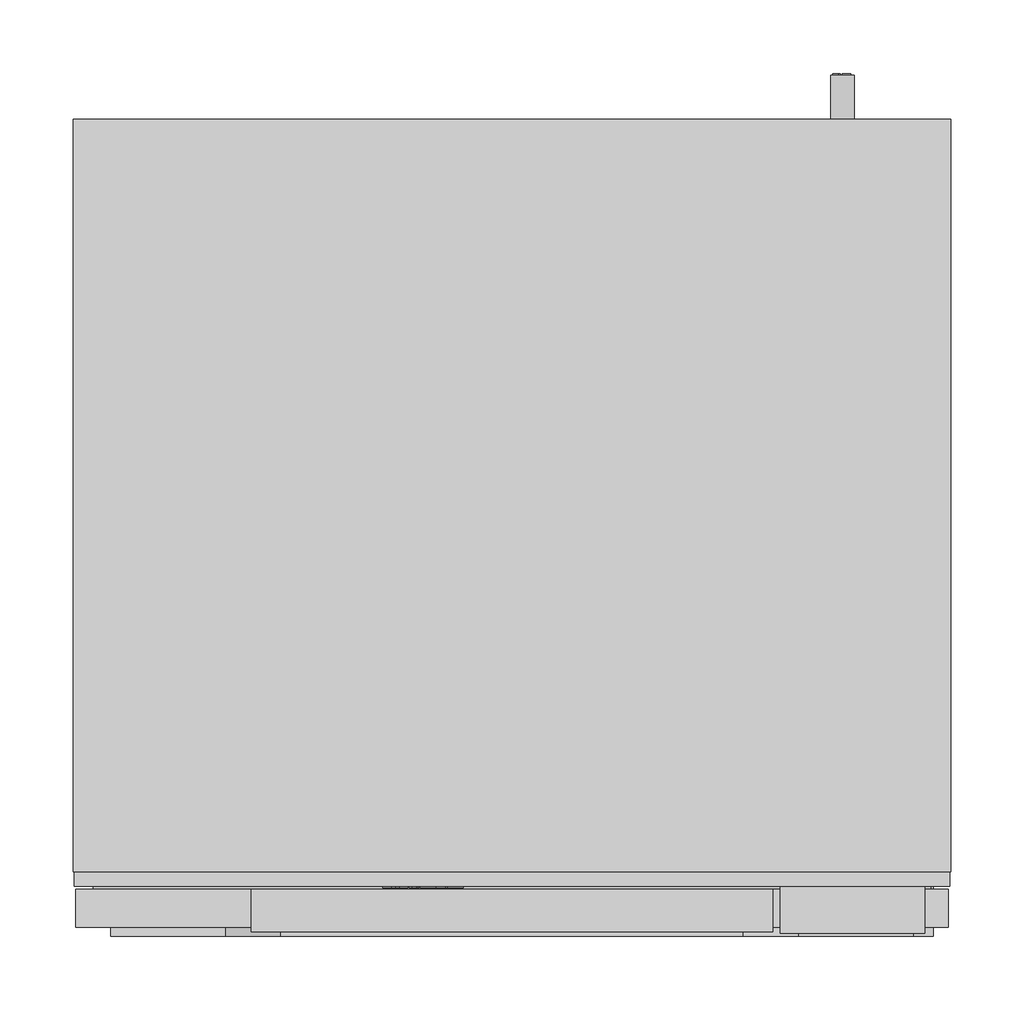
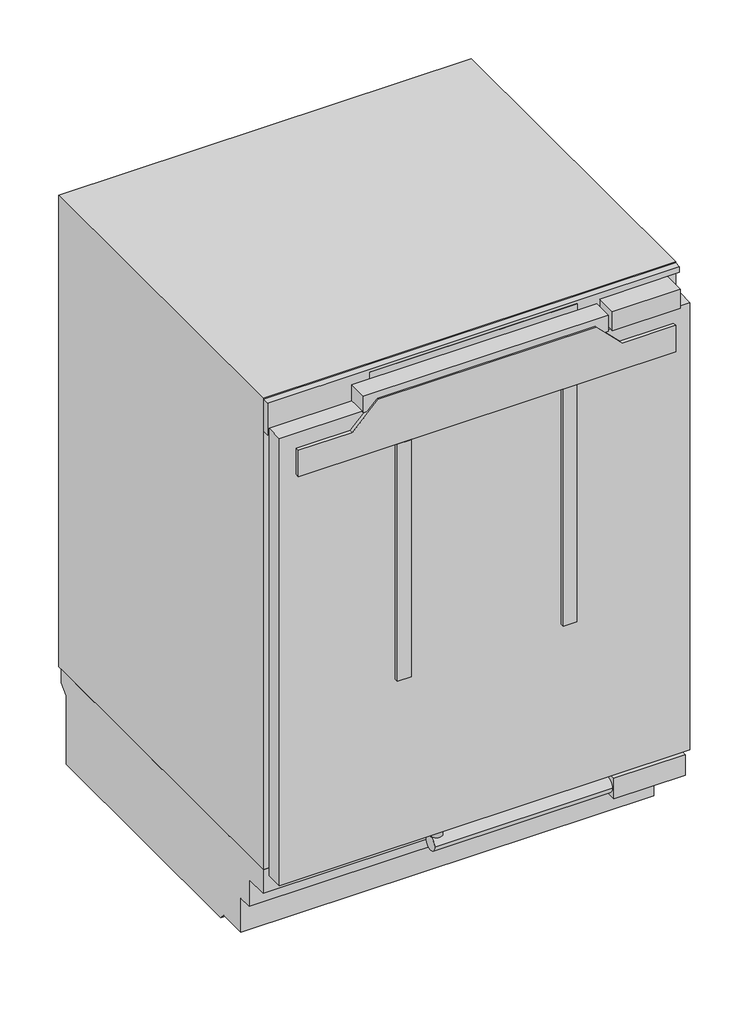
# Not in any storey: 1 proxy.
"""IFC4 building model written with IfcOpenShell, lengths in millimetres."""

from ifc_helpers import new_model, si_unit, origin, place, context, project, spatial, transform, mapped, element, save
from components import specialty_equipment_0b59583f

model = new_model("IFC4")

# Units and contexts
model_context = context("Model", 3, world=origin())
ifc_project = project(units=[si_unit("LENGTHUNIT", "METRE", prefix="MILLI")], contexts=[model_context])

# Site, building
site = spatial("IfcSite", under=ifc_project)
building = spatial("IfcBuilding", under=site)

# Proxy
placement = place(None, origin())
specialty_equipment_shape = specialty_equipment_0b59583f(model_context)
element("IfcBuildingElementProxy", 1, Name="12519420_EU1_FNUS7140C : 37714010_EU1_12519420_FNUS7140C", ObjectType="12519420_EU1_FNUS7140C : 37714010_EU1_12519420_FNUS7140C", at=placement, inside=building, context=model_context, shape_type="MappedRepresentation", body=[
    mapped(specialty_equipment_shape, transform((0.0, 0.0, 0.0), x_axis=(1.0, 0.0, 0.0), y_axis=(0.0, 1.0, 0.0), z_axis=(0.0, 0.0, 1.0))),
])

save(model, "model.ifc")
